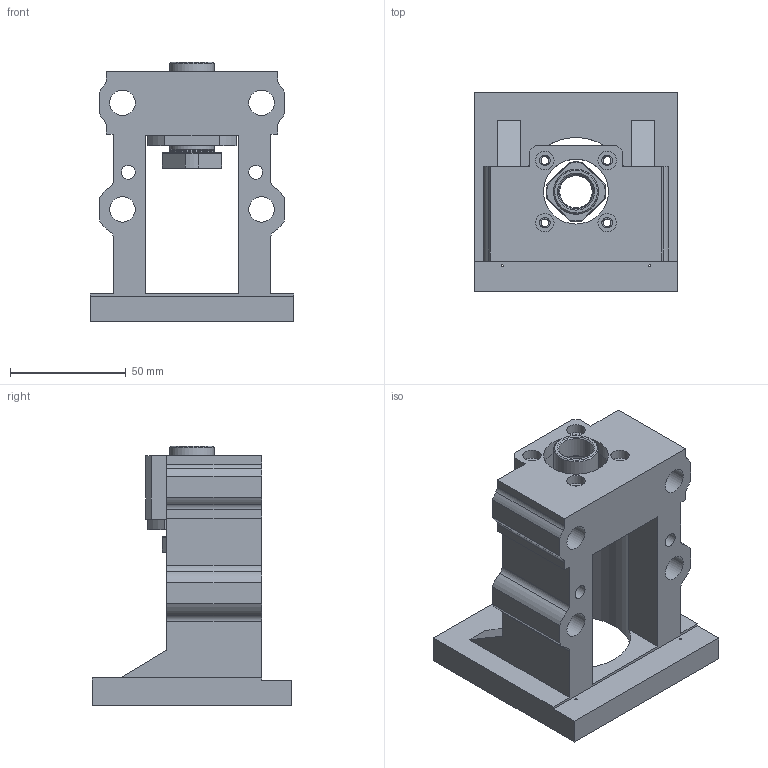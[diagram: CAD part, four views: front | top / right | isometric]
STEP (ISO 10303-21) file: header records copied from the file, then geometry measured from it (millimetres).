
FILE_DESCRIPTION(/* description */ (''),/* implementation_level */ '2;1');
FILE_NAME(/* name */ 'M80EP-EK15-C.stp',/* time_stamp */ '2017-07-03T18:09:16+08:00',/* author */ (''),/* organization */ (''),/* preprocessor_version */ 'ST-DEVELOPER v15',/* originating_system */ 'SIEMENS PLM Software NX 9.0',/* authorisation */ '');
FILE_SCHEMA (('CONFIG_CONTROL_DESIGN'));
Length unit declared in the file: millimetre
Products named in the file (4): MBCE15-EP-04; MBCE15-EP-03; MBCB15-D-02; MBCE15-EP
Assembly tree (4 placements, depth 2):
  MBCE15-EP
    MBCB15-D-02
    MBCE15-EP-03  x2
    MBCE15-EP-04
Bounding box: 88 x 86 x 112 mm (x, y, z)
Volume: 197152.6 mm3; surface area: 65602.7 mm2
Topology: 6 solids, 6 shells, 219 faces, 552 edges, 355 vertices
Faces by surface type: plane 92, cylinder 80, cone 39, bspline 8
Full cylindrical faces by diameter (mm): 3.3 x4, 3.4 x2, 4.2 x4, 4.5 x4, 6 x2, 6.6 x2, 8 x4, 11 x4, 14 x1, 15 x2, 17 x4, 19.4 x2, 19.5 x1, 28 x2, 32 x2, 47 x1, 70 x1
Entity records: 7592 total; most frequent: CARTESIAN_POINT 2260, DIRECTION 1004, ORIENTED_EDGE 928, EDGE_CURVE 464, AXIS2_PLACEMENT_3D 391, EDGE_LOOP 327, VERTEX_POINT 327, LINE 222
